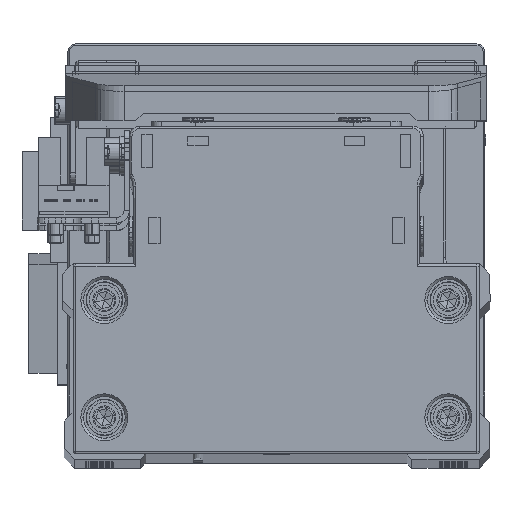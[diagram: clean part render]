
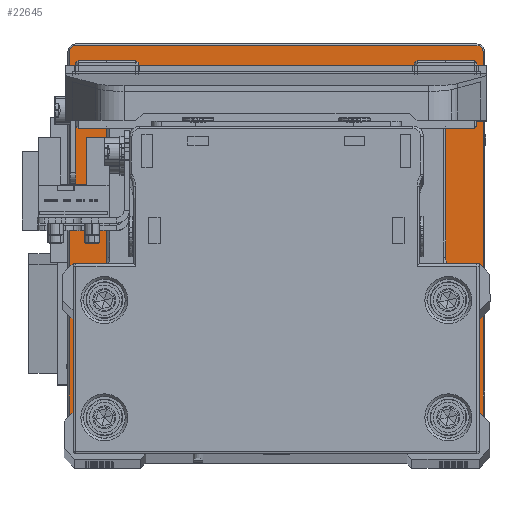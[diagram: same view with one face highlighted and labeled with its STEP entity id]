
A CAD part, top view. The second image highlights one B-rep face of the part: STEP entity #22645.
In plain terms, the highlighted planar face has unit normal (0, 0, 1) as drawn and (0, 1, 0) by its records, which use the part's own axes.
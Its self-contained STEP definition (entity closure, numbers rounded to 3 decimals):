
#455 = CARTESIAN_POINT ( 'NONE',  ( 38.5, 12., -39.7 ) ) ;
#461 = AXIS2_PLACEMENT_3D ( 'NONE', #22781, #35124, #7400 ) ;
#766 = CARTESIAN_POINT ( 'NONE',  ( 0., 12., -20.5 ) ) ;
#824 = ORIENTED_EDGE ( 'NONE', *, *, #33986, .T. ) ;
#1012 = CIRCLE ( 'NONE', #23699, 20.5 ) ;
#1503 = CIRCLE ( 'NONE', #6698, 1.2 ) ;
#1826 = CARTESIAN_POINT ( 'NONE',  ( 38.5, 12., 39.7 ) ) ;
#2365 = AXIS2_PLACEMENT_3D ( 'NONE', #30131, #2390, #14753 ) ;
#2390 = DIRECTION ( 'NONE',  ( 0., 1., 0. ) ) ;
#3723 = EDGE_CURVE ( 'NONE', #39704, #4936, #12713, .T. ) ;
#4010 = ORIENTED_EDGE ( 'NONE', *, *, #35831, .T. ) ;
#4936 = VERTEX_POINT ( 'NONE', #766 ) ;
#5684 = CARTESIAN_POINT ( 'NONE',  ( 39.7, 12., -38.5 ) ) ;
#5935 = AXIS2_PLACEMENT_3D ( 'NONE', #9747, #22092, #34445 ) ;
#6008 = CARTESIAN_POINT ( 'NONE',  ( -39.7, 12., 38.5 ) ) ;
#6442 = DIRECTION ( 'NONE',  ( 0., 0., -1. ) ) ;
#6698 = AXIS2_PLACEMENT_3D ( 'NONE', #12752, #25099, #37414 ) ;
#6739 = VERTEX_POINT ( 'NONE', #6008 ) ;
#7049 = CARTESIAN_POINT ( 'NONE',  ( 0., 12., 0. ) ) ;
#7075 = DIRECTION ( 'NONE',  ( 0., 1., 0. ) ) ;
#7278 = VERTEX_POINT ( 'NONE', #455 ) ;
#7400 = DIRECTION ( 'NONE',  ( 0., 0., -1. ) ) ;
#8875 = CARTESIAN_POINT ( 'NONE',  ( -39.7, 12., 0. ) ) ;
#9150 = CARTESIAN_POINT ( 'NONE',  ( 0., 12., 39.7 ) ) ;
#9747 = CARTESIAN_POINT ( 'NONE',  ( 0., 12., 0. ) ) ;
#9989 = VECTOR ( 'NONE', #6442, 1000. ) ;
#10965 = EDGE_CURVE ( 'NONE', #26870, #39032, #1503, .T. ) ;
#11154 = DIRECTION ( 'NONE',  ( 0., 0., 1. ) ) ;
#11486 = ORIENTED_EDGE ( 'NONE', *, *, #29989, .T. ) ;
#11818 = LINE ( 'NONE', #24167, #25022 ) ;
#12428 = VECTOR ( 'NONE', #21497, 1000. ) ;
#12453 = VECTOR ( 'NONE', #21218, 1000. ) ;
#12713 = CIRCLE ( 'NONE', #17894, 20.5 ) ;
#12752 = CARTESIAN_POINT ( 'NONE',  ( -38.5, 12., -38.5 ) ) ;
#12804 = FACE_OUTER_BOUND ( 'NONE', #36779, .T. ) ;
#12914 = CARTESIAN_POINT ( 'NONE',  ( -38.5, 12., -39.7 ) ) ;
#14753 = DIRECTION ( 'NONE',  ( 0., 0., -1. ) ) ;
#15945 = EDGE_CURVE ( 'NONE', #31959, #7278, #39217, .T. ) ;
#16734 = ORIENTED_EDGE ( 'NONE', *, *, #3723, .F. ) ;
#17628 = ORIENTED_EDGE ( 'NONE', *, *, #33575, .T. ) ;
#17894 = AXIS2_PLACEMENT_3D ( 'NONE', #7049, #19409, #31755 ) ;
#17952 = CIRCLE ( 'NONE', #461, 1.2 ) ;
#18303 = CARTESIAN_POINT ( 'NONE',  ( -39.7, 12., -38.5 ) ) ;
#18843 = ORIENTED_EDGE ( 'NONE', *, *, #36240, .F. ) ;
#19409 = DIRECTION ( 'NONE',  ( 0., 1., 0. ) ) ;
#19435 = DIRECTION ( 'NONE',  ( 0., 0., -1. ) ) ;
#19798 = CIRCLE ( 'NONE', #2365, 1.2 ) ;
#20270 = EDGE_CURVE ( 'NONE', #39032, #6739, #36578, .T. ) ;
#21218 = DIRECTION ( 'NONE',  ( 0., 0., 1. ) ) ;
#21319 = EDGE_CURVE ( 'NONE', #21660, #22833, #36867, .T. ) ;
#21497 = DIRECTION ( 'NONE',  ( 1., 0., 0. ) ) ;
#21660 = VERTEX_POINT ( 'NONE', #36777 ) ;
#21759 = AXIS2_PLACEMENT_3D ( 'NONE', #34806, #7075, #19435 ) ;
#21825 = LINE ( 'NONE', #34163, #9989 ) ;
#22092 = DIRECTION ( 'NONE',  ( 0., -1., 0. ) ) ;
#22645 = ADVANCED_FACE ( 'NONE', ( #12804, #25147 ), #37468, .F. ) ;
#22781 = CARTESIAN_POINT ( 'NONE',  ( 38.5, 12., 38.5 ) ) ;
#22833 = VERTEX_POINT ( 'NONE', #1826 ) ;
#23699 = AXIS2_PLACEMENT_3D ( 'NONE', #26536, #38854, #11154 ) ;
#24167 = CARTESIAN_POINT ( 'NONE',  ( 0., 12., -39.7 ) ) ;
#25022 = VECTOR ( 'NONE', #36496, 1000. ) ;
#25099 = DIRECTION ( 'NONE',  ( 0., 1., 0. ) ) ;
#25147 = FACE_BOUND ( 'NONE', #36468, .T. ) ;
#25993 = VERTEX_POINT ( 'NONE', #38263 ) ;
#26536 = CARTESIAN_POINT ( 'NONE',  ( 0., 12., 0. ) ) ;
#26870 = VERTEX_POINT ( 'NONE', #12914 ) ;
#26878 = ORIENTED_EDGE ( 'NONE', *, *, #15945, .T. ) ;
#29989 = EDGE_CURVE ( 'NONE', #25993, #31959, #21825, .T. ) ;
#30131 = CARTESIAN_POINT ( 'NONE',  ( -38.5, 12., 38.5 ) ) ;
#30763 = ORIENTED_EDGE ( 'NONE', *, *, #21319, .T. ) ;
#30951 = ORIENTED_EDGE ( 'NONE', *, *, #20270, .T. ) ;
#31755 = DIRECTION ( 'NONE',  ( 0., 0., 1. ) ) ;
#31777 = CARTESIAN_POINT ( 'NONE',  ( 0., 12., 20.5 ) ) ;
#31959 = VERTEX_POINT ( 'NONE', #5684 ) ;
#33575 = EDGE_CURVE ( 'NONE', #6739, #21660, #19798, .T. ) ;
#33986 = EDGE_CURVE ( 'NONE', #7278, #26870, #11818, .T. ) ;
#34163 = CARTESIAN_POINT ( 'NONE',  ( 39.7, 12., 0. ) ) ;
#34445 = DIRECTION ( 'NONE',  ( 0., 0., -1. ) ) ;
#34806 = CARTESIAN_POINT ( 'NONE',  ( 38.5, 12., -38.5 ) ) ;
#35124 = DIRECTION ( 'NONE',  ( 0., 1., 0. ) ) ;
#35831 = EDGE_CURVE ( 'NONE', #22833, #25993, #17952, .T. ) ;
#36240 = EDGE_CURVE ( 'NONE', #4936, #39704, #1012, .T. ) ;
#36345 = ORIENTED_EDGE ( 'NONE', *, *, #10965, .T. ) ;
#36468 = EDGE_LOOP ( 'NONE', ( #16734, #18843 ) ) ;
#36496 = DIRECTION ( 'NONE',  ( -1., 0., 0. ) ) ;
#36578 = LINE ( 'NONE', #8875, #12453 ) ;
#36777 = CARTESIAN_POINT ( 'NONE',  ( -38.5, 12., 39.7 ) ) ;
#36779 = EDGE_LOOP ( 'NONE', ( #26878, #824, #36345, #30951, #17628, #30763, #4010, #11486 ) ) ;
#36867 = LINE ( 'NONE', #9150, #12428 ) ;
#37414 = DIRECTION ( 'NONE',  ( 0., 0., -1. ) ) ;
#37468 = PLANE ( 'NONE',  #5935 ) ;
#38263 = CARTESIAN_POINT ( 'NONE',  ( 39.7, 12., 38.5 ) ) ;
#38854 = DIRECTION ( 'NONE',  ( 0., 1., 0. ) ) ;
#39032 = VERTEX_POINT ( 'NONE', #18303 ) ;
#39217 = CIRCLE ( 'NONE', #21759, 1.2 ) ;
#39704 = VERTEX_POINT ( 'NONE', #31777 ) ;
